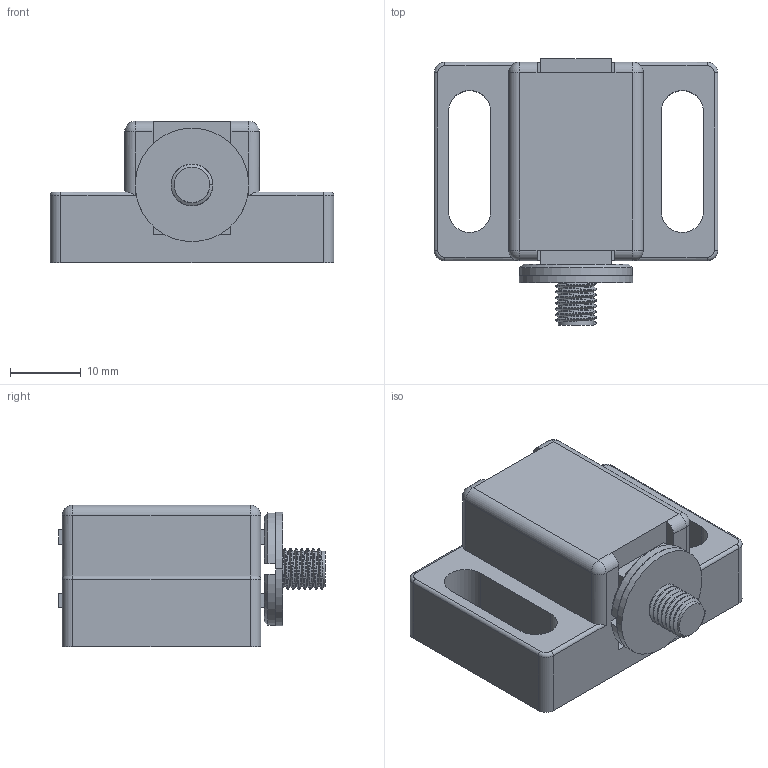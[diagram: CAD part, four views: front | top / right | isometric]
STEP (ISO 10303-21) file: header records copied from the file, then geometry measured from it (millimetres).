
FILE_DESCRIPTION (( 'STEP AP214' ), '1' );
FILE_NAME ('1.4034 Ovimagneetti C.STEP', '2025-09-15T07:02:14', ( '' ), ( '' ), 'SwSTEP 2.0', 'SolidWorks 2025', '' );
FILE_SCHEMA (( 'AUTOMOTIVE_DESIGN' ));
Length unit declared in the file: millimetre
Products named in the file (1): 1.4034 Ovimagneetti C
Bounding box: 40 x 37.6 x 20 mm (x, y, z)
Volume: 14441.9 mm3; surface area: 6074.3 mm2
Topology: 6 solids, 6 shells, 111 faces, 264 edges, 164 vertices
Faces by surface type: plane 54, cylinder 44, sphere 4, torus 4, bspline 3, cone 2
Entity records: 4939 total; most frequent: CARTESIAN_POINT 1841, ORIENTED_EDGE 520, DIRECTION 495, EDGE_CURVE 260, AXIS2_PLACEMENT_3D 169, VERTEX_POINT 164, VECTOR 157, LINE 157
